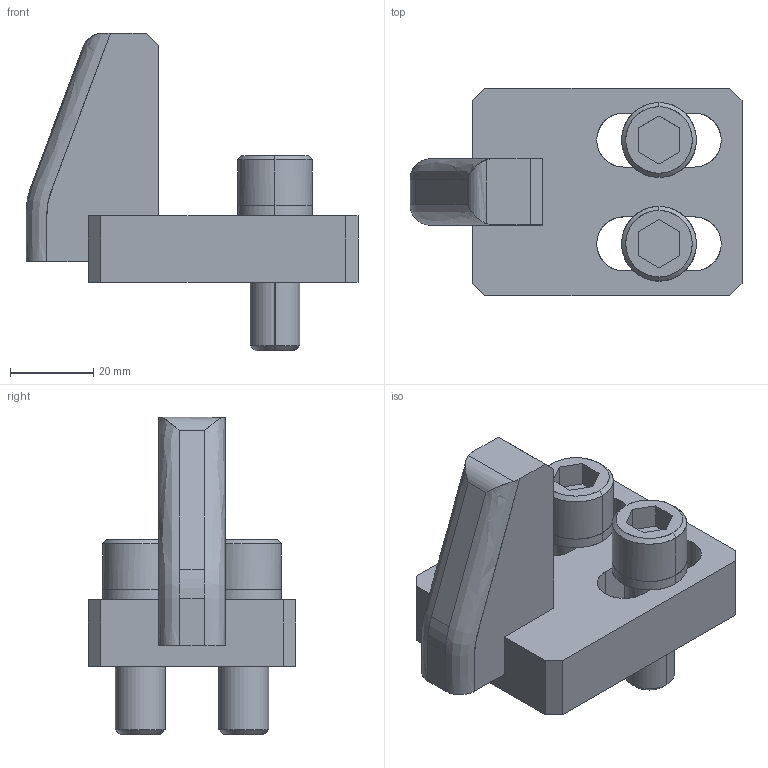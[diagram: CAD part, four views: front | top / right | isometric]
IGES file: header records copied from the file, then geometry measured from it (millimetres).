
Global section: file name: E:\UnigraphicsGraphicData\MISUMI_PRESS-PARTS\IGES\3d_ngga-60-20-15_01471_r00.igs; native system: NX V5.0; preprocessor: UGS NX IGES V5.0; author: MISUMI; date: 20110105.162029; units: millimetre
Bounding box: 80 x 50 x 76.5 mm (x, y, z)
Surface area: 23304.6 mm2 (no closed solid volume)
Topology: 0 solids, 0 shells, 103 faces, 662 edges, 662 vertices
Faces by surface type: bspline 103
